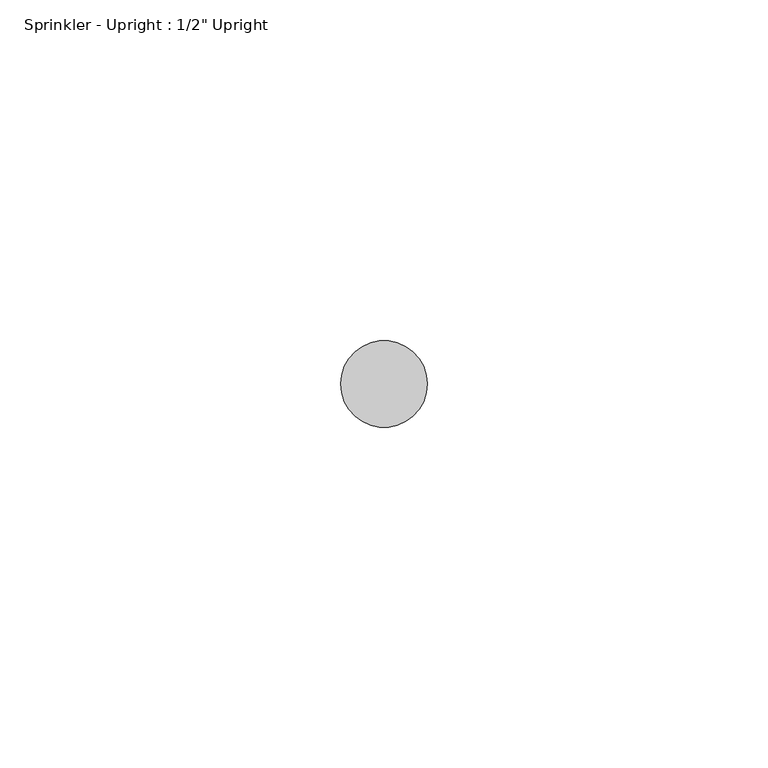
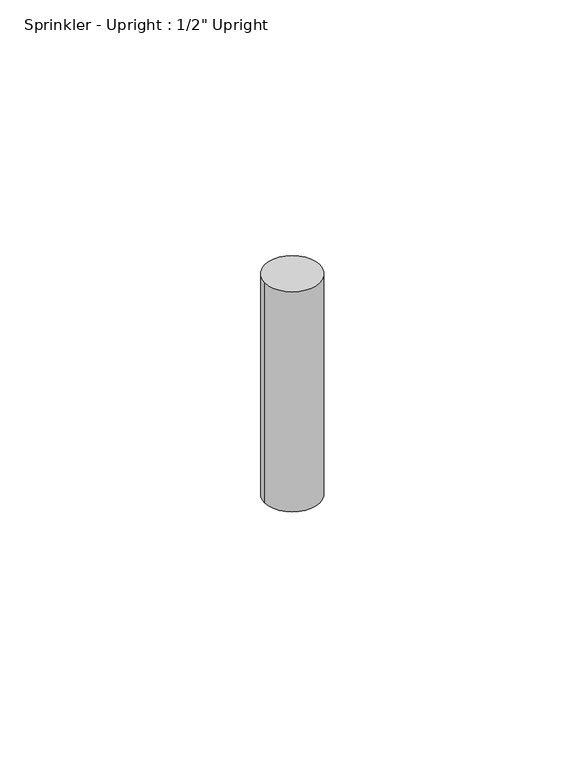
"""IFC4 building model written with IfcOpenShell, lengths in millimetres: fire suppression terminal geometry."""

from ifc_helpers import new_model, si_unit, point, origin, origin_with_axes, origin_2d, place, context, project, spatial, circle_curve, trimmed, segment, composite_curve, outline, extrude, source, transform, mapped, element, save


def fire_suppression_terminal_f250fbbb(model_context):
    return source(origin(), model_context, "Body", "SweptSolid", [
        extrude(outline(composite_curve([segment(trimmed(circle_curve(origin_2d(), 6.35), [point((-6.35, 0.0))], [point((6.35, 0.0))], False, "CARTESIAN"), True, "CONTINUOUS"), segment(trimmed(circle_curve(origin_2d(), 6.35), [point((6.35, 0.0))], [point((-6.35, 0.0))], False, "CARTESIAN"), True, "CONTINUOUS")], self_intersect=False)), origin_with_axes(), (0.0, 0.0, 1.0), 53.975),
    ])


if __name__ == "__main__":
    model = new_model("IFC4")
    model_context = context("Model", 3, world=origin())
    ifc_project = project(units=[si_unit("LENGTHUNIT", "METRE", prefix="MILLI")], contexts=[model_context])
    site = spatial("IfcSite", under=ifc_project)
    building = spatial("IfcBuilding", under=site)
    placement = place(None, origin())
    fire_suppression_terminal_shape = fire_suppression_terminal_f250fbbb(model_context)
    element("IfcFireSuppressionTerminal", 1, ObjectType="Sprinkler - Upright : 1/2\" Upright", at=placement, inside=building, context=model_context, shape_type="MappedRepresentation", body=[
        mapped(fire_suppression_terminal_shape, transform((0.0, 0.0, 0.0), x_axis=(1.0, 0.0, 0.0), y_axis=(0.0, 1.0, 0.0), z_axis=(0.0, 0.0, 1.0))),
    ])
    save(model, "model.ifc")
